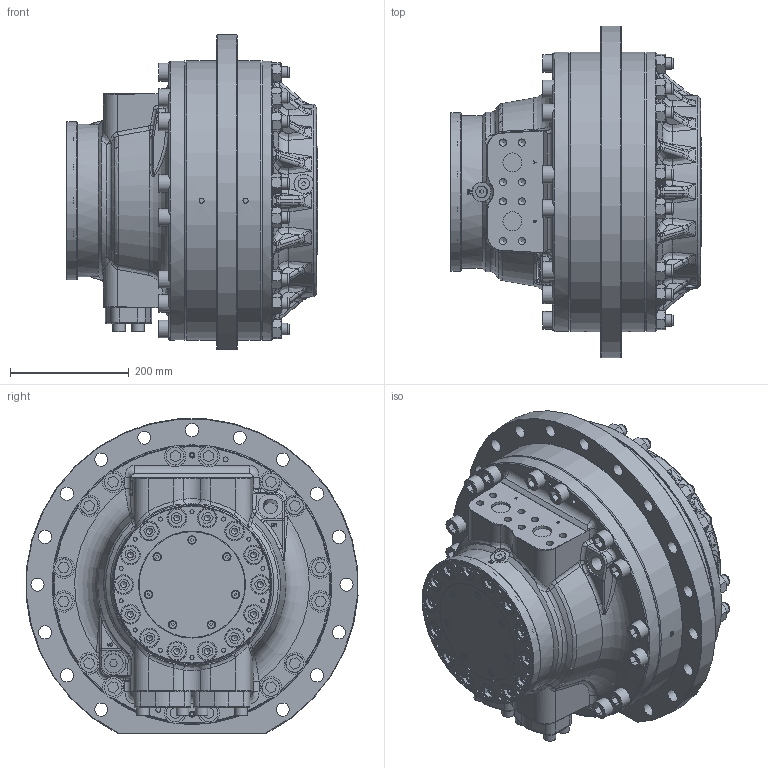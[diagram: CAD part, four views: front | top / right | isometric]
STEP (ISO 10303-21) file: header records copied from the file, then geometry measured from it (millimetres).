
FILE_DESCRIPTION(/* description */ (''),/* implementation_level */ '2;1');
FILE_NAME(/* name */ 'X20-BBBB-CCCC-1A-1N01-0-F-G_20240315.stp',/* time_stamp */ '2024-03-15T13:42:15+02:00',/* author */ (''),/* organization */ (''),/* preprocessor_version */ 'ST-DEVELOPER v16.7',/* originating_system */ 'SIEMENS PLM Software NX 12.0',/* authorisation */ '');
FILE_SCHEMA (('AUTOMOTIVE_DESIGN { 1 0 10303 214 3 1 1 1 }'));
Products named in the file (1): kall13147732e0d6
Bounding box: 422.9 x 558.69 x 528.96 mm (x, y, z)
Volume: 48775999.7 mm3; surface area: 1585830.4 mm2
Topology: 11 solids, 42 shells, 3513 faces, 8860 edges, 5730 vertices
Faces by surface type: plane 1650, cylinder 627, cone 548, bspline 400, extrusion 157, torus 127, sphere 4
Full cylindrical faces by diameter (mm): 4.2 x6, 5 x9, 6 x7, 6.8 x14, 7 x7, 8.5 x8, 10 x18, 11.79 x4, 11.8 x4, 12 x23, 13.1 x4, 13.682 x8, 15 x8, 19 x4, 19.623 x31, 21 x22, 22 x26, 23.76 x1, 24.5 x2, 26.4 x1, 30 x31, 31.8 x4, 32 x1, 33 x16, 35.7 x2, 42 x2, 44.5 x4, 85 x1, 99 x1, 100 x3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
Entity records: 120442 total; most frequent: CARTESIAN_POINT 44975, ORIENTED_EDGE 15398, DIRECTION 13574, EDGE_CURVE 7699, AXIS2_PLACEMENT_3D 5448, VERTEX_POINT 5177, EDGE_LOOP 4443, ADVANCED_FACE 3508
